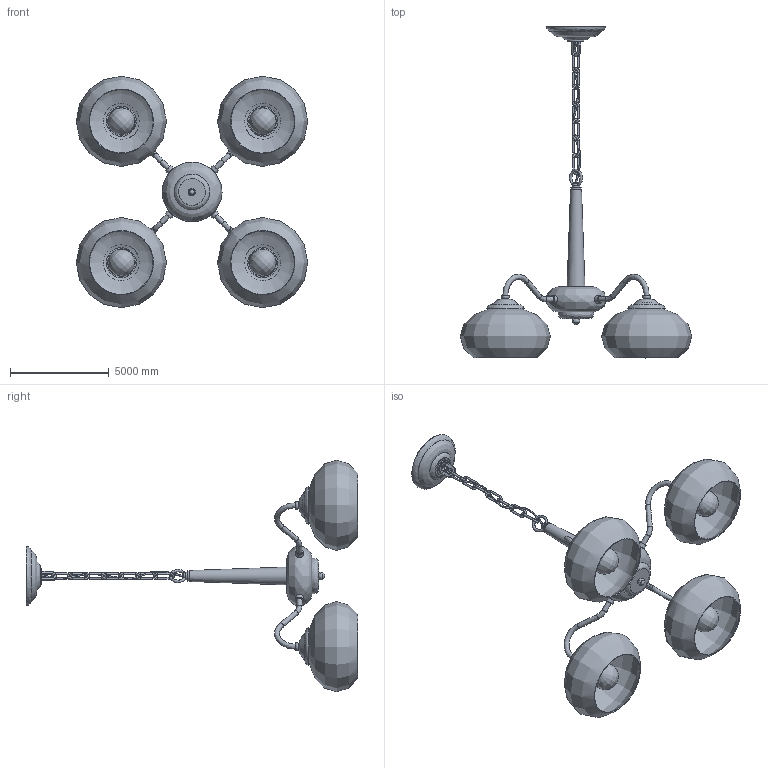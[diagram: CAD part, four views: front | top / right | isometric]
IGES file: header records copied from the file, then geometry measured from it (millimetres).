
Global section: file name: Persimmon Chandelier-4heads; native system: AutoCAD 2022 - 简体中文 (Simplified Chinese),62HAuto; preprocessor: desk Translation Framework DWG producer (atf_dwg_producer); organization: unknown; date: 20251014.173353; units: inch
Bounding box: 11746.46 x 16820.15 x 11746.46 mm (x, y, z)
Volume: 20492799759.2 mm3; surface area: 564369183.6 mm2
Topology: 57 solids, 57 shells, 444 faces, 1008 edges, 675 vertices
Faces by surface type: bspline 444
